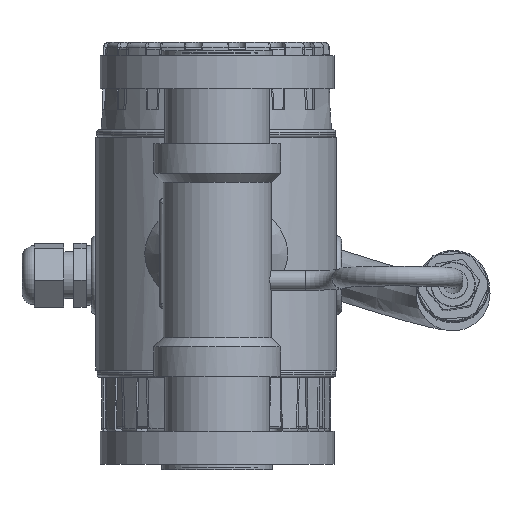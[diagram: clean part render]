
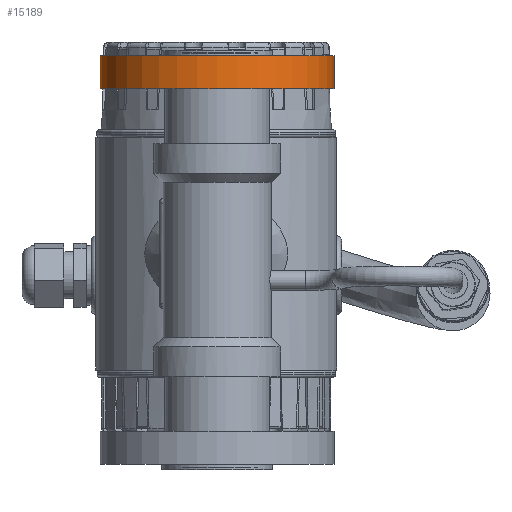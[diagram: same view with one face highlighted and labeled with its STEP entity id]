
A CAD part, front view. The second image highlights one B-rep face of the part: STEP entity #15189.
In plain terms, the highlighted cylindrical face has radius 47.5 mm (diameter 95 mm), a full revolution.
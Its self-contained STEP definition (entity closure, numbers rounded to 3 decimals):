
#2198=LINE('',#29845,#3327);
#3327=VECTOR('',#21345,47.5);
#3640=CYLINDRICAL_SURFACE('',#16927,47.5);
#4485=FACE_OUTER_BOUND('',#5458,.T.);
#5458=EDGE_LOOP('',(#13885,#13886,#13887,#13888));
#6213=CIRCLE('',#16928,47.5);
#6214=CIRCLE('',#16929,47.5);
#7545=VERTEX_POINT('',#29842);
#7546=VERTEX_POINT('',#29844);
#9684=EDGE_CURVE('',#7545,#7545,#6213,.T.);
#9685=EDGE_CURVE('',#7545,#7546,#2198,.T.);
#9686=EDGE_CURVE('',#7546,#7546,#6214,.T.);
#13885=ORIENTED_EDGE('',*,*,#9684,.F.);
#13886=ORIENTED_EDGE('',*,*,#9685,.T.);
#13887=ORIENTED_EDGE('',*,*,#9686,.F.);
#13888=ORIENTED_EDGE('',*,*,#9685,.F.);
#15189=ADVANCED_FACE('',(#4485),#3640,.T.);
#16927=AXIS2_PLACEMENT_3D('',#29841,#21341,#21342);
#16928=AXIS2_PLACEMENT_3D('',#29843,#21343,#21344);
#16929=AXIS2_PLACEMENT_3D('',#29846,#21346,#21347);
#21341=DIRECTION('center_axis',(0.,0.,1.));
#21342=DIRECTION('ref_axis',(-1.,0.,0.));
#21343=DIRECTION('center_axis',(0.,0.,
1.));
#21344=DIRECTION('ref_axis',(-1.,0.,0.));
#21345=DIRECTION('',(0.,0.,-1.));
#21346=DIRECTION('center_axis',(0.,0.,
-1.));
#21347=DIRECTION('ref_axis',(-1.,0.,0.));
#29841=CARTESIAN_POINT('Origin',(-376.699,203.904,289.874));
#29842=CARTESIAN_POINT('',(-329.199,203.903,303.333));
#29843=CARTESIAN_POINT('Origin',(-376.699,203.903,303.333));
#29844=CARTESIAN_POINT('',(-329.199,203.904,289.874));
#29845=CARTESIAN_POINT('',(-329.199,203.904,289.874));
#29846=CARTESIAN_POINT('Origin',(-376.699,203.904,289.874));
